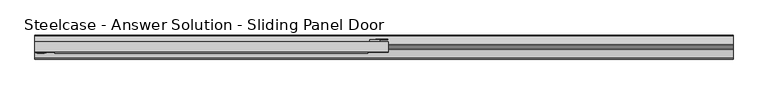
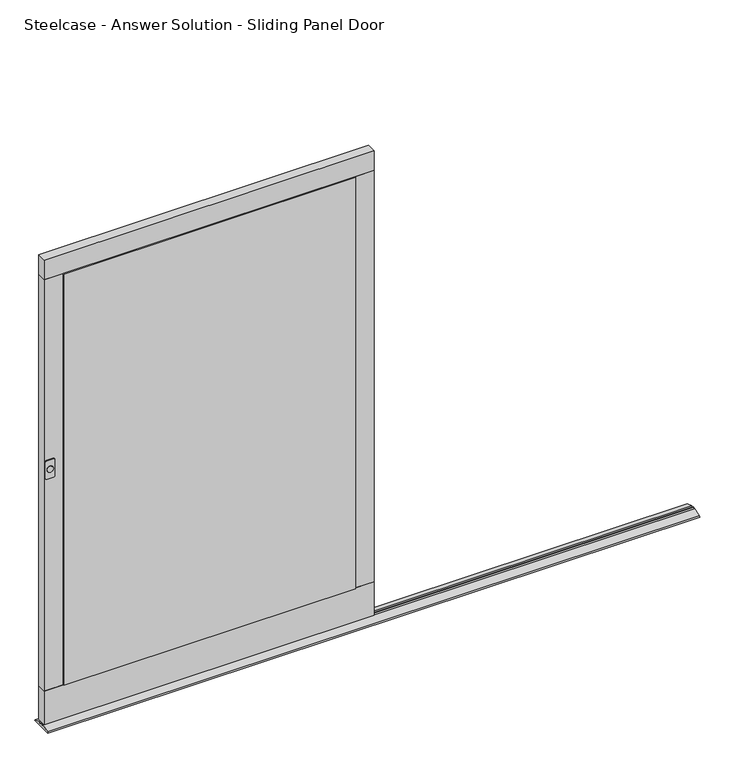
"""IFC4 building model written with IfcOpenShell, lengths in millimetres: furniture geometry."""

from ifc_helpers import new_model, si_unit, point, frame, frame_2d, origin, place, context, project, spatial, polyline, circle_curve, trimmed, segment, composite_curve, outline, extrude, source, transform, mapped, element, save


def steelcase_answer_solution_sliding_panel_door_d00a2656(model_context):
    return source(origin(), model_context, "Body", "SweptSolid", [
        extrude(outline(composite_curve([segment(trimmed(circle_curve(frame_2d((927.0989028, -2140.2278402)), 10.7468772), [point((927.0989028, -2150.9747174))], [point((927.0989028, -2129.480963))], False, "CARTESIAN"), True, "CONTINUOUS"), segment(trimmed(circle_curve(frame_2d((927.0989028, -2140.2278402)), 10.7468772), [point((927.0989028, -2129.480963))], [point((927.0989028, -2150.9747174))], False, "CARTESIAN"), True, "CONTINUOUS")], self_intersect=False)), frame((0.0, -58.27776, 0.0), z_axis=(0.0, 1.0, 0.0), x_axis=(0.0, 0.0, 1.0)), (0.0, 0.0, 1.0), 2.159),
        extrude(outline(polyline([(-1066.8, -22.2097635), (-1099.82, -22.2097635), (-1099.82, -15.6057635), (-1066.8, -15.6057635), (-1066.8, -22.2097635)])), frame((0.0, 0.0, 828.673924), z_axis=(0.0, 0.0, 1.0), x_axis=(1.0, 0.0, 0.0)), (0.0, 0.0, 1.0), 196.85),
        extrude(outline(composite_curve([segment(trimmed(circle_curve(frame_2d((899.7939028, -2150.14175)), 6.35), [point((899.7939028, -2156.49175))], [point((893.4439028, -2150.14175))], False, "CARTESIAN"), True, "CONTINUOUS"), segment(polyline([(893.4439028, -2150.14175), (893.4439028, -2129.82175)]), True, "CONTINUOUS"), segment(trimmed(circle_curve(frame_2d((899.7939028, -2129.82175)), 6.35), [point((893.4439028, -2129.82175))], [point((899.7939028, -2123.47175))], False, "CARTESIAN"), True, "CONTINUOUS"), segment(polyline([(899.7939028, -2123.47175), (954.4039028, -2123.47175)]), True, "CONTINUOUS"), segment(trimmed(circle_curve(frame_2d((954.4039028, -2129.82175)), 6.35), [point((954.4039028, -2123.47175))], [point((960.7539028, -2129.82175))], False, "CARTESIAN"), True, "CONTINUOUS"), segment(polyline([(960.7539028, -2129.82175), (960.7539028, -2150.14175)]), True, "CONTINUOUS"), segment(trimmed(circle_curve(frame_2d((954.4039028, -2150.14175)), 6.35), [point((960.7539028, -2150.14175))], [point((954.4039028, -2156.49175))], False, "CARTESIAN"), True, "CONTINUOUS"), segment(polyline([(954.4039028, -2156.49175), (899.7939028, -2156.49175)]), True, "CONTINUOUS")], self_intersect=False)), frame((0.0, -56.11876, 0.0), z_axis=(0.0, 1.0, 0.0), x_axis=(0.0, 0.0, 1.0)), (0.0, 0.0, 1.0), 2.1589722),
        extrude(outline(composite_curve([segment(polyline([(958.8489028, -1079.6675713), (946.1489028, -1079.6675713), (946.1489028, -1060.6175713)]), True, "CONTINUOUS"), segment(trimmed(circle_curve(frame_2d((939.7989028, -1060.6175713)), 6.35), [point((946.1489028, -1060.6175713))], [point((939.7989028, -1054.2675713))], True, "CARTESIAN"), True, "CONTINUOUS"), segment(polyline([(939.7989028, -1054.2675713), (914.3989028, -1054.2675713)]), True, "CONTINUOUS"), segment(trimmed(circle_curve(frame_2d((914.3989028, -1060.6175713)), 6.35), [point((914.3989028, -1054.2675713))], [point((908.0489028, -1060.6175713))], True, "CARTESIAN"), True, "CONTINUOUS"), segment(polyline([(908.0489028, -1060.6175713), (908.0489028, -1079.6675713), (895.3489028, -1079.6675713), (895.3489028, -1060.6175713)]), True, "CONTINUOUS"), segment(trimmed(circle_curve(frame_2d((914.3989028, -1060.6175713)), 19.05), [point((895.3489028, -1060.6175713))], [point((914.3989028, -1041.5675713))], False, "CARTESIAN"), True, "CONTINUOUS"), segment(polyline([(914.3989028, -1041.5675713), (939.7989028, -1041.5675713)]), True, "CONTINUOUS"), segment(trimmed(circle_curve(frame_2d((939.7989028, -1060.6175713)), 19.05), [point((939.7989028, -1041.5675713))], [point((958.8489028, -1060.6175713))], False, "CARTESIAN"), True, "CONTINUOUS"), segment(polyline([(958.8489028, -1060.6175713), (958.8489028, -1079.6675713)]), True, "CONTINUOUS")], self_intersect=False)), frame((0.0, -15.6057635, 0.0), z_axis=(0.0, 1.0, 0.0), x_axis=(0.0, 0.0, 1.0)), (0.0, 0.0, 1.0), 2.032),
        extrude(outline(polyline([(-1041.4, -53.9597878), (-2159.0, -53.9597878), (-2159.0, -22.2097635), (-1041.4, -22.2097635), (-1041.4, -53.9597878)])), frame((0.0, 0.0, 1610.3589729), z_axis=(0.0, 0.0, 1.0), x_axis=(1.0, 0.0, 0.0)), (0.0, 0.0, 1.0), 69.8499516),
        extrude(outline(polyline([(-2095.5000969, -53.9597878), (-2159.0, -53.9597878), (-2159.0, -22.2097635), (-2095.5000969, -22.2097635), (-2095.5000969, -53.9597878)])), frame((0.0, 0.0, 137.1589275), z_axis=(0.0, 0.0, 1.0), x_axis=(1.0, 0.0, 0.0)), (0.0, 0.0, 1.0), 1473.2000454),
        extrude(outline(polyline([(-1041.4, -53.9597878), (-1104.8999031, -53.9597878), (-1104.8999031, -22.2097635), (-1041.4, -22.2097635), (-1041.4, -53.9597878)])), frame((0.0, 0.0, 137.1589275), z_axis=(0.0, 0.0, 1.0), x_axis=(1.0, 0.0, 0.0)), (0.0, 0.0, 1.0), 1473.2000454),
        extrude(outline(polyline([(-1041.4, -53.9597878), (-2159.0, -53.9597878), (-2159.0, -22.2097635), (-1041.4, -22.2097635), (-1041.4, -53.9597878)])), frame((0.0, 0.0, 16.5089245), z_axis=(0.0, 0.0, 1.0), x_axis=(1.0, 0.0, 0.0)), (0.0, 0.0, 1.0), 120.650003),
        extrude(outline(polyline([(-1104.8999031, -53.9597878), (-1104.8999031, -57.7514894), (-2095.5000969, -57.7514894), (-2095.5000969, -53.9597878), (-1104.8999031, -53.9597878)])), frame((0.0, 0.0, 137.1589275), z_axis=(0.0, 0.0, 1.0), x_axis=(1.0, 0.0, 0.0)), (0.0, 0.0, 1.0), 1473.2000454),
        extrude(outline(polyline([(-29.8388763, 12.2491055), (-1.9333122, 3.0138476), (0.0, 0.0), (-76.1694786, 0.0), (-74.2361664, 3.0138476), (-46.3306023, 12.2491055), (-46.3306023, 6.2879429), (-39.9806265, 6.2879429), (-39.9806265, 12.6379637), (-36.1889248, 12.6379637), (-36.1889248, 6.2879429), (-29.8388763, 6.2879429), (-29.8388763, 12.2491055)])), frame((-2159.0, 0.0, 0.0), z_axis=(1.0, 0.0, 0.0), x_axis=(0.0, 1.0, 0.0)), (0.0, 0.0, 1.0), 2209.8),
    ])


if __name__ == "__main__":
    model = new_model("IFC4")
    model_context = context("Model", 3, world=origin())
    ifc_project = project(units=[si_unit("LENGTHUNIT", "METRE", prefix="MILLI")], contexts=[model_context])
    site = spatial("IfcSite", under=ifc_project)
    building = spatial("IfcBuilding", under=site)
    placement = place(None, origin())
    steelcase_answer_solution_sliding_panel_door_shape = steelcase_answer_solution_sliding_panel_door_d00a2656(model_context)
    element("IfcFurniture", 1, ObjectType="Steelcase - Answer Solution - Sliding Panel Door : 66\" x 42\" - Right Door Handle & Lock", at=placement, inside=building, context=model_context, shape_type="MappedRepresentation", body=[
        mapped(steelcase_answer_solution_sliding_panel_door_shape, transform((0.0, 0.0, 0.0), x_axis=(1.0, 0.0, 0.0), y_axis=(0.0, 1.0, 0.0), z_axis=(0.0, 0.0, 1.0))),
    ])
    save(model, "model.ifc")
